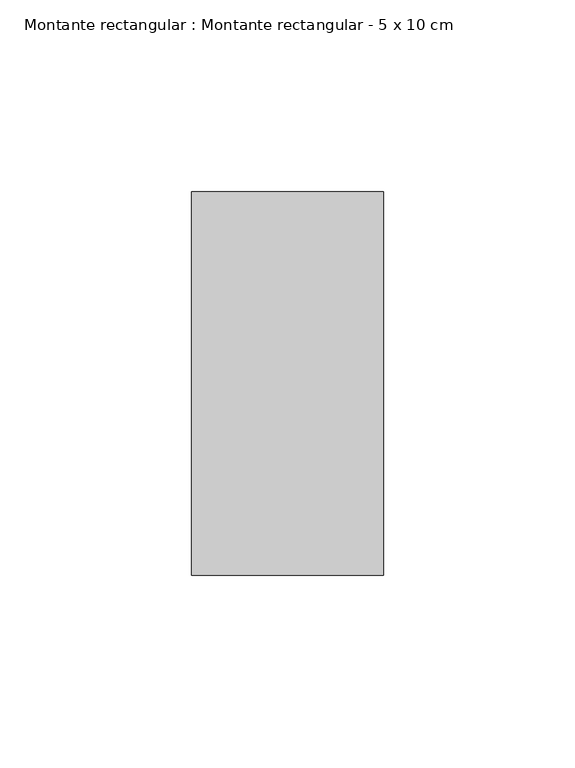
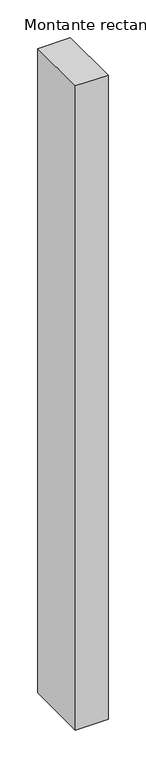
"""IFC4 building model written with IfcOpenShell, lengths in millimetres: member geometry, Montante rectangular : Montante rectangular - 5 x 10 cm."""

import ifcopenshell
import ifcopenshell.guid

model = None  # the IFC model being written
_history = None  # IfcOwnerHistory: only IFC2X3 demands one
_inside = {}  # id of a spatial element -> (the spatial element, [elements in it])
_under = {}  # id of a project, library or spatial element -> (it, [spatial elements below it])
_declared = {}  # id of a project -> (the project, [libraries it declares])
_typed = {}  # id of a type object -> (the type object, [elements of that type])
_made_of = {}  # id of a material, layer set ... -> (it, [elements and type objects made of it])


def new_model(schema):
    """Start an empty IFC model of exactly this schema.

    Asked for "IFC4X3", IfcOpenShell would pick the latest addendum, in which some entities
    have other attributes; the version numbers below select the first issue.
    IFC2X3 requires an IfcOwnerHistory on every rooted entity: one is made here for all.
    """
    global model, _history
    if schema == "IFC4X3":
        model = ifcopenshell.file(schema_version=(4, 3, 0, 0))
    else:
        model = ifcopenshell.file(schema=schema)
    _inside.clear()
    _under.clear()
    _declared.clear()
    _typed.clear()
    _made_of.clear()
    _history = None
    if model.schema == "IFC2X3":
        org = make("IfcOrganization", Name="unknown")
        user = make(
            "IfcPersonAndOrganization",
            ThePerson=make("IfcPerson", FamilyName="unknown"),
            TheOrganization=org,
        )
        app = make(
            "IfcApplication",
            ApplicationDeveloper=org,
            Version="unknown",
            ApplicationFullName="unknown",
            ApplicationIdentifier="unknown",
        )
        _history = make(
            "IfcOwnerHistory",
            OwningUser=user,
            OwningApplication=app,
            ChangeAction="ADDED",
            CreationDate=0,
        )
    return model


def make(cls, **values):
    """One entity of the class cls with the attributes given. An attribute that is None is left unset."""
    return model.create_entity(
        cls, **{name: value for name, value in values.items() if value is not None}
    )


def rooted(cls, **values):
    """An entity with a GlobalId (a new one), such as an element, a storey or a relation."""
    return make(cls, GlobalId=ifcopenshell.guid.new(), OwnerHistory=_history, **values)


def si_unit(unit_type, name, prefix=None):
    """IfcSIUnit, for example si_unit("LENGTHUNIT", "METRE", prefix="MILLI")."""
    return make("IfcSIUnit", UnitType=unit_type, Prefix=prefix, Name=name)


def assignment(units):
    """IfcUnitAssignment: the units of a project."""
    return None if units is None else make("IfcUnitAssignment", Units=units)


def point(xyz):
    """IfcCartesianPoint."""
    return None if xyz is None else make("IfcCartesianPoint", Coordinates=xyz)


def direction(xyz):
    """IfcDirection."""
    return None if xyz is None else make("IfcDirection", DirectionRatios=xyz)


def frame(location, z_axis=None, x_axis=None):
    """IfcAxis2Placement3D, a coordinate frame: its origin and axes. An axis left out is left unset."""
    return make(
        "IfcAxis2Placement3D",
        Location=point(location),
        Axis=direction(z_axis),
        RefDirection=direction(x_axis),
    )


def origin():
    """The frame at (0, 0, 0) with its axes left unset."""
    return frame((0.0, 0.0, 0.0))


def place(relative_to, where):
    """IfcLocalPlacement: puts the frame where relative to a parent placement (None: the world)."""
    return make(
        "IfcLocalPlacement", PlacementRelTo=relative_to, RelativePlacement=where
    )


def context(
    kind, dimensions, precision=None, world=None, true_north=None, identifier=None
):
    """IfcGeometricRepresentationContext, for example the 3D "Model" context."""
    return make(
        "IfcGeometricRepresentationContext",
        ContextIdentifier=identifier,
        ContextType=kind,
        CoordinateSpaceDimension=dimensions,
        Precision=precision,
        WorldCoordinateSystem=world,
        TrueNorth=true_north,
    )


def project(units=None, contexts=None):
    """IfcProject with its units and contexts."""
    return rooted(
        "IfcProject",
        Name="project",
        RepresentationContexts=contexts,
        UnitsInContext=assignment(units),
    )


def spatial(cls, under=None, at=None, **own):
    """A site, building, storey or space (cls), placed at a placement, below another one or the project."""
    s = rooted(cls, ObjectPlacement=at, **own)
    if under is not None:
        _under.setdefault(under.id(), (under, []))[1].append(s)
    return s


def polyline(points):
    """IfcPolyline through the points."""
    return make("IfcPolyline", Points=[point(p) for p in points])


def outline(outer, holes=None, kind="AREA"):
    """IfcArbitraryClosedProfileDef: a profile drawn as a closed curve; with holes, ...WithVoids."""
    if holes is None:
        return make("IfcArbitraryClosedProfileDef", ProfileType=kind, OuterCurve=outer)
    return make(
        "IfcArbitraryProfileDefWithVoids",
        ProfileType=kind,
        OuterCurve=outer,
        InnerCurves=holes,
    )


def extrude(swept, where, along, depth):
    """IfcExtrudedAreaSolid: the profile swept, set in the frame where, extruded along a direction by depth."""
    return make(
        "IfcExtrudedAreaSolid",
        SweptArea=swept,
        Position=where,
        ExtrudedDirection=direction(along),
        Depth=depth,
    )


def shape(context_of_items, identifier, shape_type, items):
    """IfcShapeRepresentation: the items that make up one representation, for example the "Body"."""
    return make(
        "IfcShapeRepresentation",
        ContextOfItems=context_of_items,
        RepresentationIdentifier=identifier,
        RepresentationType=shape_type,
        Items=items,
    )


def source(mapping_origin, context_of_items, identifier, shape_type, items):
    """IfcRepresentationMap: a shape defined once, which mapped items show again and again."""
    return make(
        "IfcRepresentationMap",
        MappingOrigin=mapping_origin,
        MappedRepresentation=shape(context_of_items, identifier, shape_type, items),
    )


def transform(
    local_origin,
    x_axis=None,
    y_axis=None,
    z_axis=None,
    scale=None,
    scale2=None,
    scale3=None,
    uniform=True,
):
    """IfcCartesianTransformationOperator3D, or its non-uniform kind. x_axis, y_axis, z_axis: its Axis1, 2, 3."""
    if uniform:
        return make(
            "IfcCartesianTransformationOperator3D",
            Axis1=direction(x_axis),
            Axis2=direction(y_axis),
            LocalOrigin=point(local_origin),
            Scale=scale,
            Axis3=direction(z_axis),
        )
    return make(
        "IfcCartesianTransformationOperator3DnonUniform",
        Axis1=direction(x_axis),
        Axis2=direction(y_axis),
        LocalOrigin=point(local_origin),
        Scale=scale,
        Axis3=direction(z_axis),
        Scale2=scale2,
        Scale3=scale3,
    )


def mapped(mapping_source, mapping_target):
    """IfcMappedItem: shows the shape of a source again, moved by a transform."""
    return make(
        "IfcMappedItem", MappingSource=mapping_source, MappingTarget=mapping_target
    )


def made_of(thing, what):
    """Note that an element or type object is made of a material, layer set ...; save() writes the relation."""
    if what is not None:
        _made_of.setdefault(what.id(), (what, []))[1].append(thing)
    return thing


def element(
    cls,
    number,
    at=None,
    inside=None,
    cuts=None,
    type_object=None,
    material=None,
    context=None,
    identifier="Body",
    shape_type=None,
    held_by="IfcProductDefinitionShape",
    body=None,
    shapes=None,
    **own,
):
    """One element of the class cls, such as IfcWall. Its Tag is "e" and its number.

    at: its placement. inside: the storey or other place that contains it. cuts: it is an
    opening in that element (IfcRelVoidsElement). A single representation is given by context,
    identifier, shape_type and body (its items); several are given by shapes. held_by: the class
    of the entity that holds the representations. save() writes the other relations.
    """
    e = rooted(cls, Tag="e%d" % number, ObjectPlacement=at, **own)
    if body is not None:
        shapes = [shape(context, identifier, shape_type, body)]
    if shapes is not None:
        e.Representation = make(held_by, Representations=shapes)
    if inside is not None:
        _inside.setdefault(inside.id(), (inside, []))[1].append(e)
    if cuts is not None:
        rooted(
            "IfcRelVoidsElement", RelatingBuildingElement=cuts, RelatedOpeningElement=e
        )
    if type_object is not None:
        _typed.setdefault(type_object.id(), (type_object, []))[1].append(e)
    return made_of(e, material)


def aggregate(whole, parts):
    """IfcRelAggregates: a whole, such as a stair, and the parts it consists of."""
    return rooted("IfcRelAggregates", RelatingObject=whole, RelatedObjects=parts)


def save(model, path):
    """Write the relations noted so far, then the file.

    IfcRelAggregates (storeys below a building ...), IfcRelContainedInSpatialStructure (elements
    in a storey), IfcRelDefinesByType, IfcRelAssociatesMaterial and IfcRelDeclares: one each for
    every whole, place, type object, material and project.
    """
    for whole, parts in _under.values():
        aggregate(whole, parts)
    for where, things in _inside.values():
        rooted(
            "IfcRelContainedInSpatialStructure",
            RelatedElements=things,
            RelatingStructure=where,
        )
    for kind, things in _typed.values():
        rooted("IfcRelDefinesByType", RelatedObjects=things, RelatingType=kind)
    for what, things in _made_of.values():
        rooted("IfcRelAssociatesMaterial", RelatedObjects=things, RelatingMaterial=what)
    for by, libraries in _declared.values():
        rooted("IfcRelDeclares", RelatingContext=by, RelatedDefinitions=libraries)
    model.write(path)


def montante_rectangular_montante_rectangular_5_x_10_cm_91150e6a(model_context):
    return source(origin(), model_context, "Body", "SweptSolid", [
        extrude(outline(polyline([(0.0, 50.0), (0.0, -50.0), (-50.0, -50.0), (-50.0, 50.0), (0.0, 50.0)])), frame((0.0, 0.0, -1043.2218064), z_axis=(0.0, 0.0, 1.0), x_axis=(1.0, 0.0, 0.0)), (0.0, 0.0, 1.0), 1043.2218064),
    ])


if __name__ == "__main__":
    model = new_model("IFC4")
    model_context = context("Model", 3, world=origin())
    ifc_project = project(units=[si_unit("LENGTHUNIT", "METRE", prefix="MILLI")], contexts=[model_context])
    site = spatial("IfcSite", under=ifc_project)
    building = spatial("IfcBuilding", under=site)
    placement = place(None, origin())
    montante_rectangular_montante_rectangular_5_x_10_cm_shape = montante_rectangular_montante_rectangular_5_x_10_cm_91150e6a(model_context)
    element("IfcMember", 1, ObjectType="Montante rectangular : Montante rectangular - 5 x 10 cm", at=placement, inside=building, context=model_context, shape_type="MappedRepresentation", body=[
        mapped(montante_rectangular_montante_rectangular_5_x_10_cm_shape, transform((0.0, 0.0, 0.0), x_axis=(1.0, 0.0, 0.0), y_axis=(0.0, 1.0, 0.0), z_axis=(0.0, 0.0, 1.0))),
    ])
    save(model, "model.ifc")
